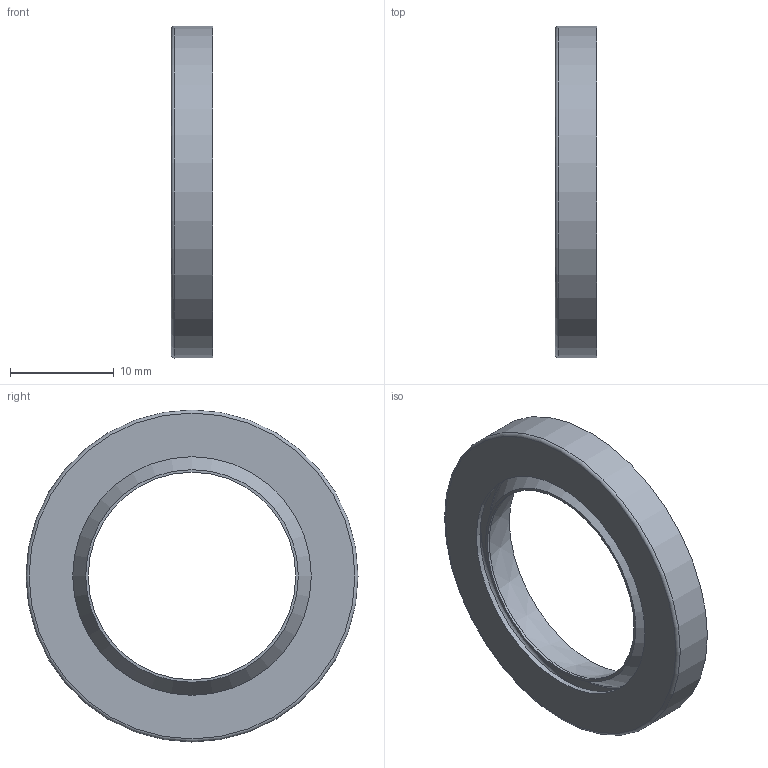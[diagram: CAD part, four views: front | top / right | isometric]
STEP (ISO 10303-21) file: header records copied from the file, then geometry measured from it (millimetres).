
FILE_DESCRIPTION(('STEP AP203'),'1');
FILE_NAME('//192.168.1.1/share/s-4 技術開発/s-4-4_CAD/s-4-4-3_見直し済み/007 修正済み/シール/SBX-20.step','2022-02-16T05:41:47',(' '),(' '),'Spatial InterOp 3D',' ',' ');
FILE_SCHEMA(('CONFIG_CONTROL_DESIGN'));
Length unit declared in the file: millimetre
Products named in the file (1): 1
Bounding box: 4 x 32 x 32 mm (x, y, z)
Volume: 1456.4 mm3; surface area: 2180 mm2
Topology: 1 solids, 1 shells, 14 faces, 23 edges, 14 vertices
Faces by surface type: plane 5, cylinder 4, torus 3, cone 2
Full cylindrical faces by diameter (mm): 20 x1, 23 x1, 27.5 x1, 32 x1
Entity records: 332 total; most frequent: DIRECTION 58, CARTESIAN_POINT 43, AXIS2_PLACEMENT_3D 29, EDGE_LOOP 28, ORIENTED_EDGE 28, FACE_OUTER_BOUND 21, ADVANCED_FACE 14, EDGE_CURVE 14
